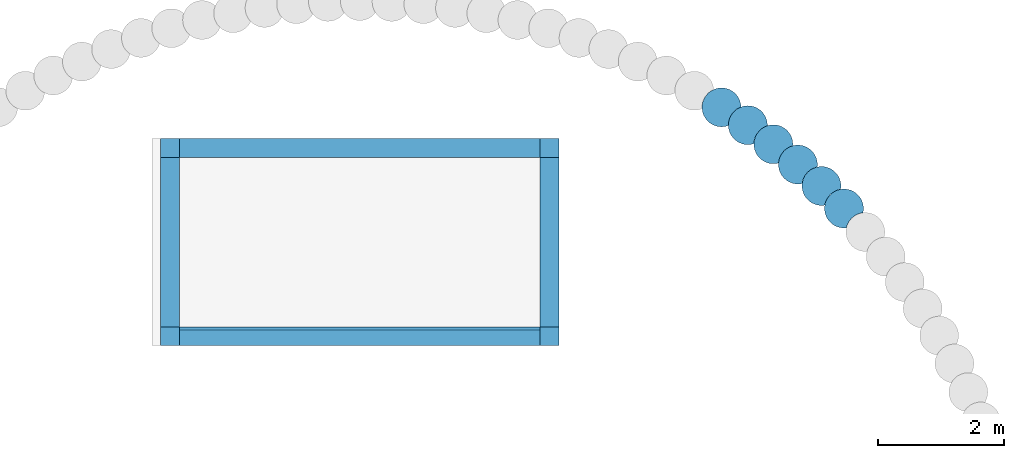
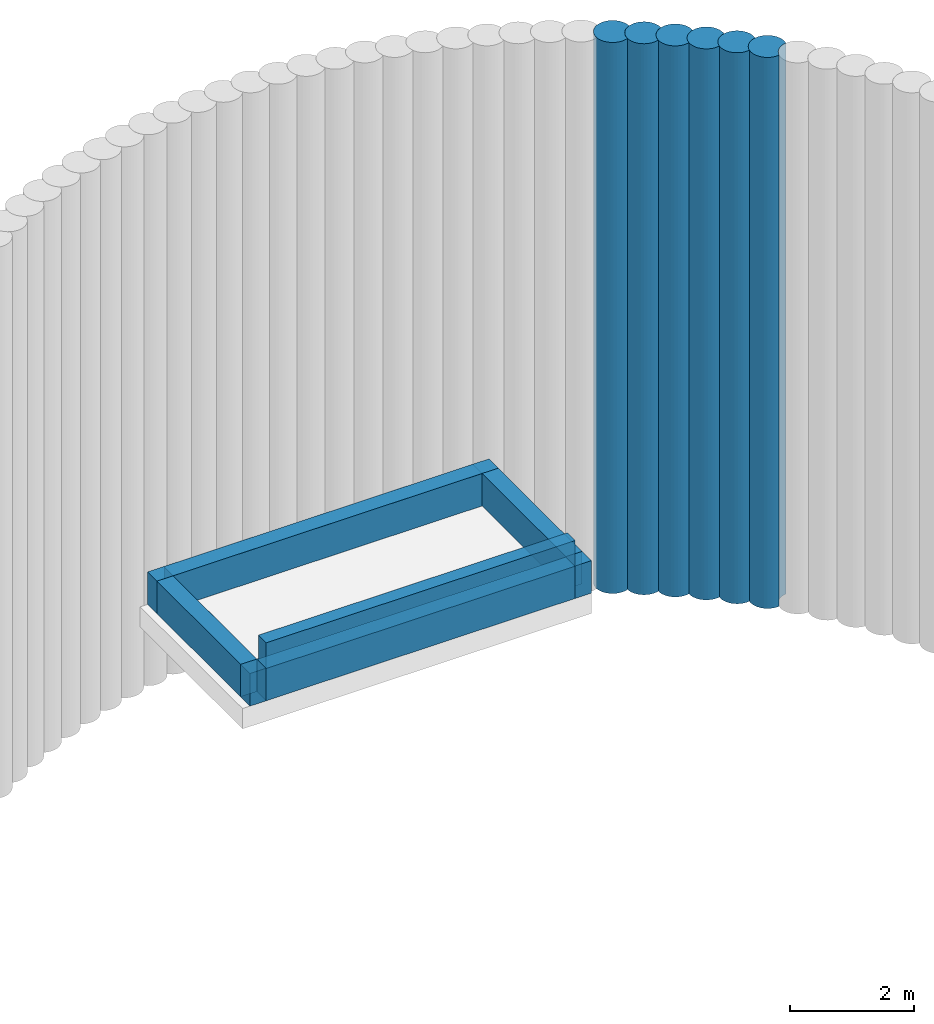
# One storey, part 15 of 16: 13 walls, 6 slabs.
"""IFC2X3 building model written with IfcOpenShell, lengths in centimetres."""

from ifc_helpers import new_model, entity, si_unit, converted_unit, derived_unit, direction, frame, frame_2d, origin, place, context, subcontext, project, spatial, polyline, circle_curve, parameter, trimmed, segment, composite_curve, rectangle, outline, extrude, material, layer, layer_set, layer_usage, type_object, element, save


model = new_model("IFC2X3")

# Units and contexts
model_context = context("Model", 3, precision=0.001, world=origin(), true_north=direction((6.12303176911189e-17, 1.0)))
body_context = subcontext(model_context, "Body", "Model", "MODEL_VIEW")
ifc_project = project(units=[si_unit("LENGTHUNIT", "METRE", prefix="CENTI"), si_unit("AREAUNIT", "SQUARE_METRE"), si_unit("VOLUMEUNIT", "CUBIC_METRE"), converted_unit("PLANEANGLEUNIT", "DEGREE", entity("IfcRatioMeasure", 0.0174532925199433), si_unit("PLANEANGLEUNIT", "RADIAN"), dimensions=[0, 0, 0, 0, 0, 0, 0]), si_unit("MASSUNIT", "GRAM", prefix="KILO"), derived_unit("MASSDENSITYUNIT", [(si_unit("MASSUNIT", "GRAM", prefix="KILO"), 1), (si_unit("LENGTHUNIT", "METRE"), -3)]), si_unit("TIMEUNIT", "SECOND"), si_unit("FREQUENCYUNIT", "HERTZ"), si_unit("THERMODYNAMICTEMPERATUREUNIT", "DEGREE_CELSIUS"), derived_unit("THERMALTRANSMITTANCEUNIT", [(si_unit("MASSUNIT", "GRAM", prefix="KILO"), 1), (si_unit("THERMODYNAMICTEMPERATUREUNIT", "KELVIN"), -1), (si_unit("TIMEUNIT", "SECOND"), -3)]), derived_unit("VOLUMETRICFLOWRATEUNIT", [(si_unit("LENGTHUNIT", "METRE"), 3), (si_unit("TIMEUNIT", "SECOND"), -1)]), si_unit("ELECTRICCURRENTUNIT", "AMPERE"), si_unit("ELECTRICVOLTAGEUNIT", "VOLT"), si_unit("POWERUNIT", "WATT"), si_unit("FORCEUNIT", "NEWTON", prefix="KILO"), si_unit("ILLUMINANCEUNIT", "LUX"), si_unit("LUMINOUSFLUXUNIT", "LUMEN"), si_unit("LUMINOUSINTENSITYUNIT", "CANDELA"), derived_unit("USERDEFINED", [(si_unit("MASSUNIT", "GRAM", prefix="KILO"), -1), (si_unit("LENGTHUNIT", "METRE"), -2), (si_unit("TIMEUNIT", "SECOND"), 3), (si_unit("LUMINOUSFLUXUNIT", "LUMEN"), 1)]), derived_unit("LINEARVELOCITYUNIT", [(si_unit("LENGTHUNIT", "METRE"), 1), (si_unit("TIMEUNIT", "SECOND"), -1)]), si_unit("PRESSUREUNIT", "PASCAL"), derived_unit("USERDEFINED", [(si_unit("LENGTHUNIT", "METRE"), -2), (si_unit("MASSUNIT", "GRAM", prefix="KILO"), 1), (si_unit("TIMEUNIT", "SECOND"), -2)])], contexts=[model_context])

# Site, building, storey
site_placement = place(None, origin())
site = spatial("IfcSite", under=ifc_project, at=site_placement, Name="Default", CompositionType="ELEMENT")
building_placement = place(site_placement, origin())
building = spatial("IfcBuilding", under=site, at=building_placement, CompositionType="ELEMENT")
storey_placement = place(building_placement, frame((0.0, 0.0, -984.0)))
storey = spatial("IfcBuildingStorey", under=building, at=storey_placement, Name="Niveau Fond de fosse", CompositionType="ELEMENT", Elevation=-984.000000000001)

# Slabs
ifc_material_1 = material(Name="Maçonnerie - Béton coulé sur place")
slab_1_placement = place(storey_placement, origin())
element("IfcSlab", 1, at=slab_1_placement, inside=storey, material=ifc_material_1, Name="Pieu béton - JBTP:600mm 2", ObjectType="Pieu béton - JBTP:600mm 2", PredefinedType="BASESLAB", context=body_context, shape_type="SweptSolid", body=[
    extrude(outline(composite_curve([segment(trimmed(circle_curve(frame_2d((1.18354648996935, -14.7318661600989), x_axis=(1.0, 0.0)), 30.9999999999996), [parameter(180.0)], [parameter(207.444291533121)], True, "PARAMETER"), True, "CONTINUOUS"), segment(trimmed(circle_curve(frame_2d((-22.2236636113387, -59.7464676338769), x_axis=(0.99886733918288, -0.0475819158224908)), 30.9999999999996), [parameter(30.1715642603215)], [parameter(100.334884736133)], True, "PARAMETER"), False, "CONTINUOUS"), segment(trimmed(circle_curve(frame_2d((1.18354648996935, -14.7318661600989), x_axis=(1.0, 0.0)), 30.9999999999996), [parameter(277.607612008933)], [parameter(4.07110999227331e-13)], True, "PARAMETER"), True, "CONTINUOUS"), segment(polyline([(32.1835464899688, -14.731866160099), (31.7068413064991, -9.31628922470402)]), True, "CONTINUOUS"), segment(polyline([(31.7068413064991, -9.31628922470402), (30.2921459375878, -4.06934121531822)]), True, "CONTINUOUS"), segment(polyline([(30.2921459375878, -4.06934121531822), (27.9815446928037, 0.850722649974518)]), True, "CONTINUOUS"), segment(polyline([(27.9815446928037, 0.850722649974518), (24.8625540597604, 5.27574740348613)]), True, "CONTINUOUS"), segment(polyline([(24.8625540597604, 5.27574740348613), (21.0196407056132, 9.09100869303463)]), True, "CONTINUOUS"), segment(polyline([(21.0196407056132, 9.09100869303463), (16.5713553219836, 12.1793831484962)]), True, "CONTINUOUS"), segment(polyline([(16.5713553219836, 12.1793831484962), (11.6531207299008, 14.446687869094)]), True, "CONTINUOUS"), segment(polyline([(11.6531207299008, 14.446687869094), (6.41465294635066, 15.8235838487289)]), True, "CONTINUOUS"), segment(polyline([(6.41465294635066, 15.8235838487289), (1.01547753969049, 16.2676782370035)]), True, "CONTINUOUS"), segment(polyline([(1.01547753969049, 16.2676782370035), (-4.38028118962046, 15.7646561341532)]), True, "CONTINUOUS"), segment(polyline([(-4.38028118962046, 15.7646561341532), (-9.56967916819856, 14.3433490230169)]), True, "CONTINUOUS"), segment(polyline([(-9.56967916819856, 14.3433490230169), (-14.4353628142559, 12.0459170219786)]), True, "CONTINUOUS"), segment(polyline([(-14.4353628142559, 12.0459170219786), (-18.8300295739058, 8.94210209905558)]), True, "CONTINUOUS"), segment(polyline([(-18.8300295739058, 8.94210209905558), (-22.6217091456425, 5.12536940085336)]), True, "CONTINUOUS"), segment(polyline([(-22.6217091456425, 5.12536940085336), (-25.6964633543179, 0.710448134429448)]), True, "CONTINUOUS"), segment(polyline([(-25.6964633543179, 0.710448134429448), (-27.9617477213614, -4.17005640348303)]), True, "CONTINUOUS"), segment(polyline([(-27.9617477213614, -4.17005640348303), (-29.3490361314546, -9.36890070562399)]), True, "CONTINUOUS"), segment(polyline([(-29.3490361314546, -9.36890070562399), (-29.8164535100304, -14.7318661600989)]), True, "CONTINUOUS")], self_intersect=False)), frame((757.269754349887, 739.613584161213, -300.0), z_axis=(0.0, 0.0, 1.0), x_axis=(0.346169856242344, 0.938171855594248, 0.0)), (0.0, 0.0, 1.0), 1084.0),
])
slab_2_placement = place(storey_placement, origin())
element("IfcSlab", 2, at=slab_2_placement, inside=storey, material=ifc_material_1, Name="Pieu béton - JBTP:600mm 2", ObjectType="Pieu béton - JBTP:600mm 2", PredefinedType="BASESLAB", context=body_context, shape_type="SweptSolid", body=[
    extrude(outline(composite_curve([segment(trimmed(circle_curve(frame_2d((1.1835464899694, -14.7318661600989), x_axis=(1.0, 0.0)), 30.9999999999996), [parameter(180.0)], [parameter(207.444291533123)], True, "PARAMETER"), True, "CONTINUOUS"), segment(trimmed(circle_curve(frame_2d((-22.2236636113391, -59.7464676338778), x_axis=(0.998867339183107, -0.047581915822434)), 30.9999999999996), [parameter(30.1715642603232)], [parameter(100.334884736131)], True, "PARAMETER"), False, "CONTINUOUS"), segment(trimmed(circle_curve(frame_2d((1.1835464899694, -14.7318661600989), x_axis=(1.0, 0.0)), 30.9999999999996), [parameter(277.607612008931)], [parameter(4.07110999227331e-13)], True, "PARAMETER"), True, "CONTINUOUS"), segment(polyline([(32.1835464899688, -14.7318661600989), (31.706841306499, -9.31628922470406)]), True, "CONTINUOUS"), segment(polyline([(31.706841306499, -9.31628922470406), (30.2921459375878, -4.06934121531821)]), True, "CONTINUOUS"), segment(polyline([(30.2921459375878, -4.06934121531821), (27.9815446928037, 0.850722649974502)]), True, "CONTINUOUS"), segment(polyline([(27.9815446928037, 0.850722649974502), (24.8625540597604, 5.2757474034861)]), True, "CONTINUOUS"), segment(polyline([(24.8625540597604, 5.2757474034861), (21.0196407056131, 9.09100869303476)]), True, "CONTINUOUS"), segment(polyline([(21.0196407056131, 9.09100869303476), (16.5713553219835, 12.1793831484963)]), True, "CONTINUOUS"), segment(polyline([(16.5713553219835, 12.1793831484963), (11.6531207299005, 14.4466878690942)]), True, "CONTINUOUS"), segment(polyline([(11.6531207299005, 14.4466878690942), (6.41465294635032, 15.823583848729)]), True, "CONTINUOUS"), segment(polyline([(6.41465294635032, 15.823583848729), (1.01547753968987, 16.2676782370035)]), True, "CONTINUOUS"), segment(polyline([(1.01547753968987, 16.2676782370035), (-4.38028118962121, 15.7646561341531)]), True, "CONTINUOUS"), segment(polyline([(-4.38028118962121, 15.7646561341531), (-9.56967916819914, 14.3433490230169)]), True, "CONTINUOUS"), segment(polyline([(-9.56967916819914, 14.3433490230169), (-14.435362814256, 12.0459170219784)]), True, "CONTINUOUS"), segment(polyline([(-14.435362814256, 12.0459170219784), (-18.8300295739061, 8.94210209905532)]), True, "CONTINUOUS"), segment(polyline([(-18.8300295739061, 8.94210209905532), (-22.6217091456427, 5.12536940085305)]), True, "CONTINUOUS"), segment(polyline([(-22.6217091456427, 5.12536940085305), (-25.6964633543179, 0.710448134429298)]), True, "CONTINUOUS"), segment(polyline([(-25.6964633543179, 0.710448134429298), (-27.9617477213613, -4.17005640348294)]), True, "CONTINUOUS"), segment(polyline([(-27.9617477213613, -4.17005640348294), (-29.3490361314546, -9.36890070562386)]), True, "CONTINUOUS"), segment(polyline([(-29.3490361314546, -9.36890070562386), (-29.8164535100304, -14.7318661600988)]), True, "CONTINUOUS")], self_intersect=False)), frame((721.219793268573, 774.808198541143, -300.0), z_axis=(0.0, 0.0, 1.0), x_axis=(0.301137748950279, 0.953580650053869, 0.0)), (0.0, 0.0, 1.0), 1084.0),
])
slab_3_placement = place(storey_placement, origin())
element("IfcSlab", 3, at=slab_3_placement, inside=storey, material=ifc_material_1, Name="Pieu béton - JBTP:600mm 2", ObjectType="Pieu béton - JBTP:600mm 2", PredefinedType="BASESLAB", context=body_context, shape_type="SweptSolid", body=[
    extrude(outline(composite_curve([segment(trimmed(circle_curve(frame_2d((1.18354648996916, -14.7318661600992), x_axis=(1.0, 0.0)), 30.9999999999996), [parameter(180.0)], [parameter(207.444291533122)], True, "PARAMETER"), True, "CONTINUOUS"), segment(trimmed(circle_curve(frame_2d((-22.2236636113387, -59.7464676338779), x_axis=(0.998867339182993, -0.0475819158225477)), 30.9999999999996), [parameter(30.171564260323)], [parameter(100.334884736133)], True, "PARAMETER"), False, "CONTINUOUS"), segment(trimmed(circle_curve(frame_2d((1.18354648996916, -14.7318661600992), x_axis=(1.0, 0.0)), 30.9999999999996), [parameter(277.607612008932)], [parameter(4.07110999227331e-13)], True, "PARAMETER"), True, "CONTINUOUS"), segment(polyline([(32.1835464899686, -14.7318661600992), (31.706841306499, -9.31628922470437)]), True, "CONTINUOUS"), segment(polyline([(31.706841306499, -9.31628922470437), (30.2921459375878, -4.06934121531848)]), True, "CONTINUOUS"), segment(polyline([(30.2921459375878, -4.06934121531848), (27.9815446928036, 0.850722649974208)]), True, "CONTINUOUS"), segment(polyline([(27.9815446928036, 0.850722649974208), (24.8625540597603, 5.27574740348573)]), True, "CONTINUOUS"), segment(polyline([(24.8625540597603, 5.27574740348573), (21.0196407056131, 9.09100869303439)]), True, "CONTINUOUS"), segment(polyline([(21.0196407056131, 9.09100869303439), (16.5713553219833, 12.1793831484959)]), True, "CONTINUOUS"), segment(polyline([(16.5713553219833, 12.1793831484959), (11.6531207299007, 14.4466878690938)]), True, "CONTINUOUS"), segment(polyline([(11.6531207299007, 14.4466878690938), (6.41465294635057, 15.8235838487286)]), True, "CONTINUOUS"), segment(polyline([(6.41465294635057, 15.8235838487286), (1.01547753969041, 16.2676782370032)]), True, "CONTINUOUS"), segment(polyline([(1.01547753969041, 16.2676782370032), (-4.38028118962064, 15.7646561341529)]), True, "CONTINUOUS"), segment(polyline([(-4.38028118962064, 15.7646561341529), (-9.56967916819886, 14.3433490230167)]), True, "CONTINUOUS"), segment(polyline([(-9.56967916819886, 14.3433490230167), (-14.4353628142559, 12.0459170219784)]), True, "CONTINUOUS"), segment(polyline([(-14.4353628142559, 12.0459170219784), (-18.830029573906, 8.94210209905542)]), True, "CONTINUOUS"), segment(polyline([(-18.830029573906, 8.94210209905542), (-22.6217091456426, 5.12536940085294)]), True, "CONTINUOUS"), segment(polyline([(-22.6217091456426, 5.12536940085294), (-25.696463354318, 0.710448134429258)]), True, "CONTINUOUS"), segment(polyline([(-25.696463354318, 0.710448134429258), (-27.9617477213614, -4.1700564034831)]), True, "CONTINUOUS"), segment(polyline([(-27.9617477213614, -4.1700564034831), (-29.3490361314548, -9.36890070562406)]), True, "CONTINUOUS"), segment(polyline([(-29.3490361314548, -9.36890070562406), (-29.8164535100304, -14.7318661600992)]), True, "CONTINUOUS")], self_intersect=False)), frame((683.536037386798, 808.247623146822, -300.0), z_axis=(0.0, 0.0, 1.0), x_axis=(0.255423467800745, 0.966829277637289, 0.0)), (0.0, 0.0, 1.0), 1084.0),
])
slab_4_placement = place(storey_placement, origin())
element("IfcSlab", 4, at=slab_4_placement, inside=storey, material=ifc_material_1, Name="Pieu béton - JBTP:600mm 2", ObjectType="Pieu béton - JBTP:600mm 2", PredefinedType="BASESLAB", context=body_context, shape_type="SweptSolid", body=[
    extrude(outline(composite_curve([segment(trimmed(circle_curve(frame_2d((1.18354648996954, -14.7318661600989), x_axis=(1.0, 0.0)), 30.9999999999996), [parameter(180.0)], [parameter(207.444291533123)], True, "PARAMETER"), True, "CONTINUOUS"), segment(trimmed(circle_curve(frame_2d((-22.223663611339, -59.7464676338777), x_axis=(0.998867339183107, -0.0475819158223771)), 30.9999999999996), [parameter(30.171564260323)], [parameter(100.334884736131)], True, "PARAMETER"), False, "CONTINUOUS"), segment(trimmed(circle_curve(frame_2d((1.18354648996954, -14.7318661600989), x_axis=(1.0, 0.0)), 30.9999999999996), [parameter(277.607612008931)], [parameter(4.07110999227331e-13)], True, "PARAMETER"), True, "CONTINUOUS"), segment(polyline([(32.1835464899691, -14.731866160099), (31.7068413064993, -9.31628922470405)]), True, "CONTINUOUS"), segment(polyline([(31.7068413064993, -9.31628922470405), (30.2921459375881, -4.06934121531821)]), True, "CONTINUOUS"), segment(polyline([(30.2921459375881, -4.06934121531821), (27.981544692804, 0.850722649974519)]), True, "CONTINUOUS"), segment(polyline([(27.981544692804, 0.850722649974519), (24.8625540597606, 5.27574740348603)]), True, "CONTINUOUS"), segment(polyline([(24.8625540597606, 5.27574740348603), (21.0196407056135, 9.09100869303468)]), True, "CONTINUOUS"), segment(polyline([(21.0196407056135, 9.09100869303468), (16.5713553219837, 12.1793831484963)]), True, "CONTINUOUS"), segment(polyline([(16.5713553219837, 12.1793831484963), (11.6531207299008, 14.4466878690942)]), True, "CONTINUOUS"), segment(polyline([(11.6531207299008, 14.4466878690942), (6.4146529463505, 15.823583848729)]), True, "CONTINUOUS"), segment(polyline([(6.4146529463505, 15.823583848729), (1.01547753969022, 16.2676782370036)]), True, "CONTINUOUS"), segment(polyline([(1.01547753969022, 16.2676782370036), (-4.3802811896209, 15.7646561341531)]), True, "CONTINUOUS"), segment(polyline([(-4.3802811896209, 15.7646561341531), (-9.56967916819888, 14.3433490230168)]), True, "CONTINUOUS"), segment(polyline([(-9.56967916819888, 14.3433490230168), (-14.435362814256, 12.0459170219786)]), True, "CONTINUOUS"), segment(polyline([(-14.435362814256, 12.0459170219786), (-18.8300295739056, 8.9421020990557)]), True, "CONTINUOUS"), segment(polyline([(-18.8300295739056, 8.9421020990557), (-22.6217091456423, 5.12536940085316)]), True, "CONTINUOUS"), segment(polyline([(-22.6217091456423, 5.12536940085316), (-25.6964633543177, 0.710448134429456)]), True, "CONTINUOUS"), segment(polyline([(-25.6964633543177, 0.710448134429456), (-27.9617477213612, -4.17005640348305)]), True, "CONTINUOUS"), segment(polyline([(-27.9617477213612, -4.17005640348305), (-29.3490361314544, -9.36890070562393)]), True, "CONTINUOUS"), segment(polyline([(-29.3490361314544, -9.36890070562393), (-29.81645351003, -14.7318661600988)]), True, "CONTINUOUS")], self_intersect=False)), frame((644.303852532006, 839.856106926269, -300.0), z_axis=(0.0, 0.0, 1.0), x_axis=(0.209130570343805, 0.977887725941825, 0.0)), (0.0, 0.0, 1.0), 1084.0),
])
slab_5_placement = place(storey_placement, origin())
element("IfcSlab", 5, at=slab_5_placement, inside=storey, material=ifc_material_1, Name="Pieu béton - JBTP:600mm 2", ObjectType="Pieu béton - JBTP:600mm 2", PredefinedType="BASESLAB", context=body_context, shape_type="SweptSolid", body=[
    extrude(outline(composite_curve([segment(trimmed(circle_curve(frame_2d((1.18354648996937, -14.731866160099), x_axis=(1.0, 0.0)), 30.9999999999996), [parameter(180.0)], [parameter(207.444291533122)], True, "PARAMETER"), True, "CONTINUOUS"), segment(trimmed(circle_curve(frame_2d((-22.2236636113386, -59.7464676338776), x_axis=(0.998867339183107, -0.0475819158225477)), 30.9999999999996), [parameter(30.1715642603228)], [parameter(100.334884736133)], True, "PARAMETER"), False, "CONTINUOUS"), segment(trimmed(circle_curve(frame_2d((1.18354648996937, -14.731866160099), x_axis=(1.0, 0.0)), 30.9999999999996), [parameter(277.607612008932)], [parameter(4.07110999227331e-13)], True, "PARAMETER"), True, "CONTINUOUS"), segment(polyline([(32.1835464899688, -14.7318661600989), (31.7068413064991, -9.31628922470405)]), True, "CONTINUOUS"), segment(polyline([(31.7068413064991, -9.31628922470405), (30.2921459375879, -4.0693412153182)]), True, "CONTINUOUS"), segment(polyline([(30.2921459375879, -4.0693412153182), (27.9815446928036, 0.850722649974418)]), True, "CONTINUOUS"), segment(polyline([(27.9815446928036, 0.850722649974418), (24.8625540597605, 5.27574740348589)]), True, "CONTINUOUS"), segment(polyline([(24.8625540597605, 5.27574740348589), (21.0196407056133, 9.09100869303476)]), True, "CONTINUOUS"), segment(polyline([(21.0196407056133, 9.09100869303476), (16.5713553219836, 12.1793831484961)]), True, "CONTINUOUS"), segment(polyline([(16.5713553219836, 12.1793831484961), (11.6531207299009, 14.4466878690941)]), True, "CONTINUOUS"), segment(polyline([(11.6531207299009, 14.4466878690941), (6.41465294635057, 15.8235838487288)]), True, "CONTINUOUS"), segment(polyline([(6.41465294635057, 15.8235838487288), (1.01547753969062, 16.2676782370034)]), True, "CONTINUOUS"), segment(polyline([(1.01547753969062, 16.2676782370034), (-4.38028118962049, 15.7646561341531)]), True, "CONTINUOUS"), segment(polyline([(-4.38028118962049, 15.7646561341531), (-9.56967916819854, 14.3433490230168)]), True, "CONTINUOUS"), segment(polyline([(-9.56967916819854, 14.3433490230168), (-14.4353628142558, 12.0459170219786)]), True, "CONTINUOUS"), segment(polyline([(-14.4353628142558, 12.0459170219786), (-18.8300295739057, 8.9421020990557)]), True, "CONTINUOUS"), segment(polyline([(-18.8300295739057, 8.9421020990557), (-22.6217091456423, 5.12536940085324)]), True, "CONTINUOUS"), segment(polyline([(-22.6217091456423, 5.12536940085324), (-25.6964633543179, 0.710448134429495)]), True, "CONTINUOUS"), segment(polyline([(-25.6964633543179, 0.710448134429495), (-27.9617477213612, -4.17005640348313)]), True, "CONTINUOUS"), segment(polyline([(-27.9617477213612, -4.17005640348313), (-29.3490361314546, -9.36890070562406)]), True, "CONTINUOUS"), segment(polyline([(-29.3490361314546, -9.36890070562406), (-29.8164535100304, -14.7318661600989)]), True, "CONTINUOUS")], self_intersect=False)), frame((603.612112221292, 869.562046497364, -300.0), z_axis=(0.0, 0.0, 1.0), x_axis=(0.162363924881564, 0.986730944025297, 0.0)), (0.0, 0.0, 1.0), 1084.0),
])
slab_6_placement = place(storey_placement, origin())
element("IfcSlab", 6, at=slab_6_placement, inside=storey, material=ifc_material_1, Name="Pieu béton - JBTP:600mm 2", ObjectType="Pieu béton - JBTP:600mm 2", PredefinedType="BASESLAB", context=body_context, shape_type="SweptSolid", body=[
    extrude(outline(composite_curve([segment(trimmed(circle_curve(frame_2d((1.18354648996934, -14.7318661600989), x_axis=(1.0, 0.0)), 30.9999999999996), [parameter(180.0)], [parameter(207.444291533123)], True, "PARAMETER"), True, "CONTINUOUS"), segment(trimmed(circle_curve(frame_2d((-22.2236636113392, -59.7464676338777), x_axis=(0.998867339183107, -0.0475819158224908)), 30.9999999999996), [parameter(30.171564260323)], [parameter(100.334884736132)], True, "PARAMETER"), False, "CONTINUOUS"), segment(trimmed(circle_curve(frame_2d((1.18354648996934, -14.7318661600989), x_axis=(1.0, 0.0)), 30.9999999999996), [parameter(277.607612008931)], [parameter(4.07110999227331e-13)], True, "PARAMETER"), True, "CONTINUOUS"), segment(polyline([(32.1835464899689, -14.731866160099), (31.706841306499, -9.316289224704)]), True, "CONTINUOUS"), segment(polyline([(31.706841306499, -9.316289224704), (30.2921459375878, -4.06934121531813)]), True, "CONTINUOUS"), segment(polyline([(30.2921459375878, -4.06934121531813), (27.9815446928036, 0.85072264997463)]), True, "CONTINUOUS"), segment(polyline([(27.9815446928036, 0.85072264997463), (24.8625540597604, 5.27574740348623)]), True, "CONTINUOUS"), segment(polyline([(24.8625540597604, 5.27574740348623), (21.0196407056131, 9.09100869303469)]), True, "CONTINUOUS"), segment(polyline([(21.0196407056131, 9.09100869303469), (16.5713553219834, 12.1793831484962)]), True, "CONTINUOUS"), segment(polyline([(16.5713553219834, 12.1793831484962), (11.6531207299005, 14.4466878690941)]), True, "CONTINUOUS"), segment(polyline([(11.6531207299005, 14.4466878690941), (6.41465294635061, 15.823583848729)]), True, "CONTINUOUS"), segment(polyline([(6.41465294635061, 15.823583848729), (1.01547753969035, 16.2676782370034)]), True, "CONTINUOUS"), segment(polyline([(1.01547753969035, 16.2676782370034), (-4.38028118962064, 15.7646561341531)]), True, "CONTINUOUS"), segment(polyline([(-4.38028118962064, 15.7646561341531), (-9.56967916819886, 14.3433490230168)]), True, "CONTINUOUS"), segment(polyline([(-9.56967916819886, 14.3433490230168), (-14.4353628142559, 12.0459170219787)]), True, "CONTINUOUS"), segment(polyline([(-14.4353628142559, 12.0459170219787), (-18.8300295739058, 8.94210209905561)]), True, "CONTINUOUS"), segment(polyline([(-18.8300295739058, 8.94210209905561), (-22.6217091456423, 5.12536940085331)]), True, "CONTINUOUS"), segment(polyline([(-22.6217091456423, 5.12536940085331), (-25.6964633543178, 0.710448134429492)]), True, "CONTINUOUS"), segment(polyline([(-25.6964633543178, 0.710448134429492), (-27.9617477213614, -4.17005640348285)]), True, "CONTINUOUS"), segment(polyline([(-27.9617477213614, -4.17005640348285), (-29.3490361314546, -9.36890070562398)]), True, "CONTINUOUS"), segment(polyline([(-29.3490361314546, -9.36890070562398), (-29.8164535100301, -14.7318661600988)]), True, "CONTINUOUS")], self_intersect=False)), frame((561.552996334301, 897.298148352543, -300.0), z_axis=(0.0, 0.0, 1.0), x_axis=(0.115229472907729, 0.993338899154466, 0.0)), (0.0, 0.0, 1.0), 1084.0),
])

# Walls
ifc_material_2 = material(Name="Mur par défaut")
ifc_layer_1 = layer(ifc_material_2, 30.0)
ifc_layer_set_1 = layer_set([ifc_layer_1], Name="Mur de base:Voile béton ep. 30cm")
ifc_layer_usage_1 = layer_usage(ifc_layer_set_1, "AXIS2", "NEGATIVE", 15.0)
wall_type_1 = type_object("IfcWallType", Name="Mur de base:Voile béton ep. 30cm", PredefinedType="STANDARD", material=ifc_layer_set_1)
wall_1_placement = place(storey_placement, frame((-317.5, 832.0, 0.0)))
element("IfcWallStandardCase", 7, at=wall_1_placement, inside=storey, type_object=wall_type_1, material=ifc_layer_usage_1, Name="Mur de base:Voile béton ep. 30cm", ObjectType="Mur de base:Voile béton ep. 30cm", context=body_context, shape_type="SweptSolid", body=[
    extrude(rectangle(XDim=634.999999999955, YDim=29.9999999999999, at=frame_2d((317.499999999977, -1.15463194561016e-14), x_axis=(-1.0, 0.0))), origin(), (0.0, 0.0, 1.0), 64.0000000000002),
])
ifc_layer_usage_2 = layer_usage(ifc_layer_set_1, "AXIS2", "NEGATIVE", 15.0)
wall_2_placement = place(storey_placement, frame((302.499999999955, 817.0, 0.0), z_axis=(0.0, 0.0, 1.0), x_axis=(0.0, -1.0, 0.0)))
element("IfcWallStandardCase", 8, at=wall_2_placement, inside=storey, type_object=wall_type_1, material=ifc_layer_usage_2, Name="Mur de base:Voile béton ep. 30cm", ObjectType="Mur de base:Voile béton ep. 30cm", context=body_context, shape_type="SweptSolid", body=[
    extrude(rectangle(XDim=300.000000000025, YDim=30.0, at=frame_2d((150.000000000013, -2.66453525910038e-15), x_axis=(-1.0, 0.0))), origin(), (0.0, 0.0, 1.0), 64.0000000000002),
])
ifc_layer_usage_3 = layer_usage(ifc_layer_set_1, "AXIS2", "NEGATIVE", 15.0)
wall_3_placement = place(storey_placement, frame((287.499999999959, 532.0, 0.0), z_axis=(0.0, 0.0, 1.0), x_axis=(-1.0, 0.0, 0.0)))
element("IfcWallStandardCase", 9, at=wall_3_placement, inside=storey, type_object=wall_type_1, material=ifc_layer_usage_3, Name="Mur de base:Voile béton ep. 30cm", ObjectType="Mur de base:Voile béton ep. 30cm", context=body_context, shape_type="SweptSolid", body=[
    extrude(rectangle(XDim=604.999999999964, YDim=29.9999999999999, at=frame_2d((302.499999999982, 1.86517468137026e-14), x_axis=(-1.0, 0.0))), origin(), (0.0, 0.0, 1.0), 64.0000000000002),
])
ifc_layer_usage_4 = layer_usage(ifc_layer_set_1, "AXIS2", "NEGATIVE", 15.0)
wall_4_placement = place(storey_placement, frame((-302.5, 547.0, 0.0), z_axis=(0.0, 0.0, 1.0), x_axis=(0.0, 1.0, 0.0)))
element("IfcWallStandardCase", 10, at=wall_4_placement, inside=storey, type_object=wall_type_1, material=ifc_layer_usage_4, Name="Mur de base:Voile béton ep. 30cm", ObjectType="Mur de base:Voile béton ep. 30cm", context=body_context, shape_type="SweptSolid", body=[
    extrude(rectangle(XDim=270.000000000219, YDim=30.0, at=frame_2d((135.000000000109, 0.0), x_axis=(-1.0, 0.0))), origin(), (0.0, 0.0, 1.0), 63.9329128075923),
])
ifc_layer_usage_5 = layer_usage(ifc_layer_set_1, "AXIS2", "NEGATIVE", 15.0)
wall_5_placement = place(storey_placement, frame((-287.5, 832.0, 0.0)))
element("IfcWallStandardCase", 11, at=wall_5_placement, inside=storey, type_object=wall_type_1, material=ifc_layer_usage_5, Name="Mur de base:Voile béton ep. 30cm", ObjectType="Mur de base:Voile béton ep. 30cm", context=body_context, shape_type="SweptSolid", body=[
    extrude(rectangle(XDim=574.999999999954, YDim=29.9999999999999, at=frame_2d((287.499999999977, 0.0), x_axis=(-1.0, 0.0))), origin(), (0.0, 0.0, 1.0), 63.9329128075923),
])
ifc_layer_usage_6 = layer_usage(ifc_layer_set_1, "AXIS2", "NEGATIVE", 15.0)
wall_6_placement = place(storey_placement, frame((-302.5, 547.0, 0.0), z_axis=(0.0, 0.0, 1.0), x_axis=(0.0, 1.0, 0.0)))
element("IfcWallStandardCase", 12, at=wall_6_placement, inside=storey, type_object=wall_type_1, material=ifc_layer_usage_6, Name="Mur de base:Voile béton ep. 30cm", ObjectType="Mur de base:Voile béton ep. 30cm", context=body_context, shape_type="SweptSolid", body=[
    extrude(rectangle(XDim=270.000000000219, YDim=30.0, at=frame_2d((135.000000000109, 0.0), x_axis=(-1.0, 0.0))), origin(), (0.0, 0.0, 1.0), 63.9329128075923),
])
ifc_layer_usage_7 = layer_usage(ifc_layer_set_1, "AXIS2", "NEGATIVE", 15.0)
wall_7_placement = place(storey_placement, frame((287.499999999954, 532.0, 0.0), z_axis=(0.0, 0.0, 1.0), x_axis=(-1.0, 0.0, 0.0)))
element("IfcWallStandardCase", 13, at=wall_7_placement, inside=storey, type_object=wall_type_1, material=ifc_layer_usage_7, Name="Mur de base:Voile béton ep. 30cm", ObjectType="Mur de base:Voile béton ep. 30cm", context=body_context, shape_type="SweptSolid", body=[
    extrude(rectangle(XDim=574.999999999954, YDim=29.9999999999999, at=frame_2d((287.499999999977, 0.0), x_axis=(-1.0, 0.0))), origin(), (0.0, 0.0, 1.0), 63.4743542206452),
])
ifc_layer_usage_8 = layer_usage(ifc_layer_set_1, "AXIS2", "NEGATIVE", 15.0)
wall_8_placement = place(storey_placement, frame((302.499999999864, 817.0, 0.0), z_axis=(0.0, 0.0, 1.0), x_axis=(0.0, -1.0, 0.0)))
element("IfcWallStandardCase", 14, at=wall_8_placement, inside=storey, type_object=wall_type_1, material=ifc_layer_usage_8, Name="Mur de base:Voile béton ep. 30cm", ObjectType="Mur de base:Voile béton ep. 30cm", context=body_context, shape_type="SweptSolid", body=[
    extrude(rectangle(XDim=270.000000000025, YDim=30.0, at=frame_2d((135.000000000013, 0.0), x_axis=(-1.0, 0.0))), origin(), (0.0, 0.0, 1.0), 64.0000000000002),
])
ifc_layer_usage_9 = layer_usage(ifc_layer_set_1, "AXIS2", "NEGATIVE", 15.0)
wall_9_placement = place(storey_placement, frame((-287.5, 832.0, 0.0)))
element("IfcWallStandardCase", 15, at=wall_9_placement, inside=storey, type_object=wall_type_1, material=ifc_layer_usage_9, Name="Mur de base:Voile béton ep. 30cm", ObjectType="Mur de base:Voile béton ep. 30cm", context=body_context, shape_type="SweptSolid", body=[
    extrude(rectangle(XDim=574.999999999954, YDim=29.9999999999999, at=frame_2d((287.499999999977, 0.0), x_axis=(-1.0, 0.0))), origin(), (0.0, 0.0, 1.0), 63.9329128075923),
])
ifc_layer_usage_10 = layer_usage(ifc_layer_set_1, "AXIS2", "NEGATIVE", 15.0)
wall_10_placement = place(storey_placement, frame((-302.5, 547.0, 0.0), z_axis=(0.0, 0.0, 1.0), x_axis=(0.0, 1.0, 0.0)))
element("IfcWallStandardCase", 16, at=wall_10_placement, inside=storey, type_object=wall_type_1, material=ifc_layer_usage_10, Name="Mur de base:Voile béton ep. 30cm", ObjectType="Mur de base:Voile béton ep. 30cm", context=body_context, shape_type="SweptSolid", body=[
    extrude(rectangle(XDim=270.000000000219, YDim=30.0, at=frame_2d((135.000000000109, 0.0), x_axis=(-1.0, 0.0))), origin(), (0.0, 0.0, 1.0), 64.0000000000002),
])
ifc_layer_usage_11 = layer_usage(ifc_layer_set_1, "AXIS2", "NEGATIVE", 15.0)
wall_11_placement = place(storey_placement, frame((287.499999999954, 532.0, 0.0), z_axis=(0.0, 0.0, 1.0), x_axis=(-1.0, 0.0, 0.0)))
element("IfcWallStandardCase", 17, at=wall_11_placement, inside=storey, type_object=wall_type_1, material=ifc_layer_usage_11, Name="Mur de base:Voile béton ep. 30cm", ObjectType="Mur de base:Voile béton ep. 30cm", context=body_context, shape_type="SweptSolid", body=[
    extrude(rectangle(XDim=574.999999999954, YDim=29.9999999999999, at=frame_2d((287.499999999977, 2.66453525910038e-15), x_axis=(-1.0, 0.0))), origin(), (0.0, 0.0, 1.0), 63.4743542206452),
])
ifc_layer_usage_12 = layer_usage(ifc_layer_set_1, "AXIS2", "NEGATIVE", 15.0)
wall_12_placement = place(storey_placement, frame((302.499999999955, 817.0, 0.0), z_axis=(0.0, 0.0, 1.0), x_axis=(0.0, -1.0, 0.0)))
element("IfcWallStandardCase", 18, at=wall_12_placement, inside=storey, type_object=wall_type_1, material=ifc_layer_usage_12, Name="Mur de base:Voile béton ep. 30cm", ObjectType="Mur de base:Voile béton ep. 30cm", context=body_context, shape_type="SweptSolid", body=[
    extrude(rectangle(XDim=270.000000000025, YDim=30.0, at=frame_2d((135.000000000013, 0.0), x_axis=(-1.0, 0.0))), origin(), (0.0, 0.0, 1.0), 64.0000000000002),
])
ifc_layer_2 = layer(ifc_material_2, 25.0)
ifc_layer_set_2 = layer_set([ifc_layer_2], Name="Mur de base:Voile béton ep. 25cm")
ifc_layer_usage_13 = layer_usage(ifc_layer_set_2, "AXIS2", "NEGATIVE", 12.5)
wall_type_2 = type_object("IfcWallType", Name="Mur de base:Voile béton ep. 25cm", PredefinedType="NOTDEFINED", material=ifc_layer_set_2)
wall_13_placement = place(storey_placement, frame((-287.5, 529.499999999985, 0.0)))
element("IfcWallStandardCase", 19, at=wall_13_placement, inside=storey, type_object=wall_type_2, material=ifc_layer_usage_13, Name="Mur de base:Voile béton ep. 25cm", ObjectType="Mur de base:Voile béton ep. 25cm", context=body_context, shape_type="SweptSolid", body=[
    extrude(rectangle(XDim=574.999999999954, YDim=24.9999999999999, at=frame_2d((287.499999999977, 0.0), x_axis=(-1.0, 0.0))), origin(), (0.0, 0.0, 1.0), 114.0),
])

save(model, "model.ifc")
